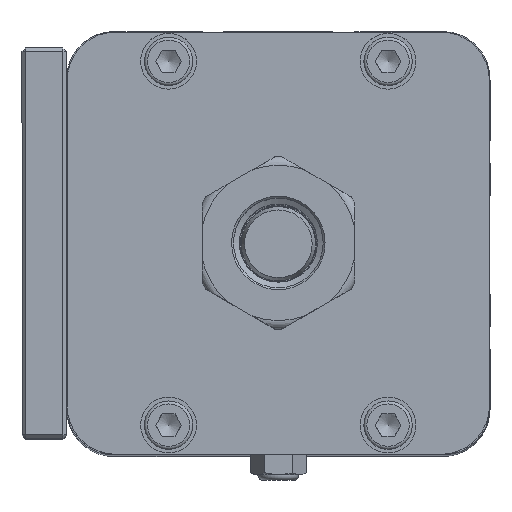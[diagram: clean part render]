
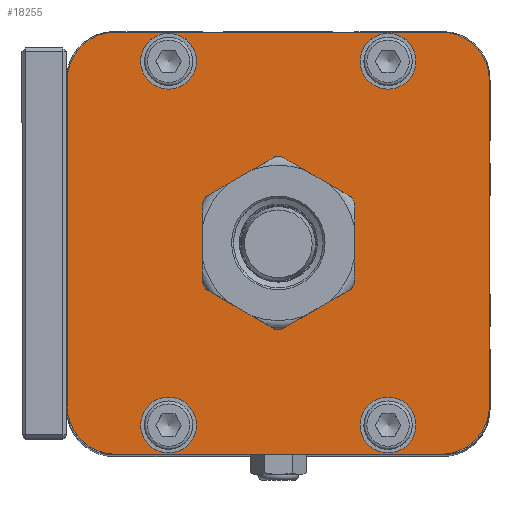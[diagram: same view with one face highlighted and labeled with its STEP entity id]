
A CAD part, top view. The second image highlights one B-rep face of the part: STEP entity #18255.
In plain terms, the highlighted planar face has unit normal (0, 0, 1) as drawn and (0, 0, -1) by its records, which use the part's own axes.
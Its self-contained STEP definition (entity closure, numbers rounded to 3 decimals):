
#1255=FACE_BOUND('',#3225,.T.);
#1256=FACE_BOUND('',#3226,.T.);
#1257=FACE_BOUND('',#3227,.T.);
#1258=FACE_BOUND('',#3228,.T.);
#1259=FACE_BOUND('',#3229,.T.);
#1494=PLANE('',#20141);
#2061=FACE_OUTER_BOUND('',#3224,.T.);
#3224=EDGE_LOOP('',(#13455,#13456,#13457,#13458,#13459,#13460,#13461,#13462));
#3225=EDGE_LOOP('',(#13463));
#3226=EDGE_LOOP('',(#13464));
#3227=EDGE_LOOP('',(#13465));
#3228=EDGE_LOOP('',(#13466));
#3229=EDGE_LOOP('',(#13467));
#4610=LINE('',#29178,#5764);
#4614=LINE('',#29190,#5768);
#4618=LINE('',#29202,#5772);
#4622=LINE('',#29213,#5776);
#5764=VECTOR('',#23189,10.);
#5768=VECTOR('',#23201,10.);
#5772=VECTOR('',#23213,10.);
#5776=VECTOR('',#23225,10.);
#6836=CIRCLE('',#20086,20.);
#6843=CIRCLE('',#20099,7.5);
#6847=CIRCLE('',#20106,7.5);
#6851=CIRCLE('',#20113,7.5);
#6855=CIRCLE('',#20120,7.5);
#6857=CIRCLE('',#20125,13.);
#6859=CIRCLE('',#20129,13.);
#6861=CIRCLE('',#20133,13.);
#6863=CIRCLE('',#20137,13.);
#8198=VERTEX_POINT('',#29095);
#8205=VERTEX_POINT('',#29118);
#8209=VERTEX_POINT('',#29131);
#8213=VERTEX_POINT('',#29144);
#8217=VERTEX_POINT('',#29157);
#8220=VERTEX_POINT('',#29168);
#8221=VERTEX_POINT('',#29169);
#8224=VERTEX_POINT('',#29177);
#8226=VERTEX_POINT('',#29183);
#8228=VERTEX_POINT('',#29189);
#8230=VERTEX_POINT('',#29195);
#8232=VERTEX_POINT('',#29201);
#8234=VERTEX_POINT('',#29207);
#10136=EDGE_CURVE('',#8198,#8198,#6836,.T.);
#10145=EDGE_CURVE('',#8205,#8205,#6843,.T.);
#10151=EDGE_CURVE('',#8209,#8209,#6847,.T.);
#10157=EDGE_CURVE('',#8213,#8213,#6851,.T.);
#10163=EDGE_CURVE('',#8217,#8217,#6855,.T.);
#10168=EDGE_CURVE('',#8220,#8221,#6857,.T.);
#10172=EDGE_CURVE('',#8224,#8220,#4610,.T.);
#10175=EDGE_CURVE('',#8226,#8224,#6859,.T.);
#10178=EDGE_CURVE('',#8228,#8226,#4614,.T.);
#10181=EDGE_CURVE('',#8230,#8228,#6861,.T.);
#10184=EDGE_CURVE('',#8232,#8230,#4618,.T.);
#10187=EDGE_CURVE('',#8234,#8232,#6863,.T.);
#10190=EDGE_CURVE('',#8221,#8234,#4622,.T.);
#13455=ORIENTED_EDGE('',*,*,#10190,.F.);
#13456=ORIENTED_EDGE('',*,*,#10168,.F.);
#13457=ORIENTED_EDGE('',*,*,#10172,.F.);
#13458=ORIENTED_EDGE('',*,*,#10175,.F.);
#13459=ORIENTED_EDGE('',*,*,#10178,.F.);
#13460=ORIENTED_EDGE('',*,*,#10181,.F.);
#13461=ORIENTED_EDGE('',*,*,#10184,.F.);
#13462=ORIENTED_EDGE('',*,*,#10187,.F.);
#13463=ORIENTED_EDGE('',*,*,#10136,.T.);
#13464=ORIENTED_EDGE('',*,*,#10145,.T.);
#13465=ORIENTED_EDGE('',*,*,#10151,.T.);
#13466=ORIENTED_EDGE('',*,*,#10157,.T.);
#13467=ORIENTED_EDGE('',*,*,#10163,.T.);
#18255=ADVANCED_FACE('',(#2061,#1255,#1256,#1257,#1258,#1259),#1494,.F.);
#20086=AXIS2_PLACEMENT_3D('',#29097,#23092,#23093);
#20099=AXIS2_PLACEMENT_3D('',#29119,#23120,#23121);
#20106=AXIS2_PLACEMENT_3D('',#29132,#23136,#23137);
#20113=AXIS2_PLACEMENT_3D('',#29145,#23152,#23153);
#20120=AXIS2_PLACEMENT_3D('',#29158,#23168,#23169);
#20125=AXIS2_PLACEMENT_3D('',#29170,#23181,#23182);
#20129=AXIS2_PLACEMENT_3D('',#29184,#23194,#23195);
#20133=AXIS2_PLACEMENT_3D('',#29196,#23206,#23207);
#20137=AXIS2_PLACEMENT_3D('',#29208,#23218,#23219);
#20141=AXIS2_PLACEMENT_3D('',#29216,#23229,#23230);
#23092=DIRECTION('center_axis',(0.,0.,1.));
#23093=DIRECTION('ref_axis',(0.,1.,0.));
#23120=DIRECTION('center_axis',(0.,0.,1.));
#23121=DIRECTION('ref_axis',(-1.,0.,0.));
#23136=DIRECTION('center_axis',(0.,0.,1.));
#23137=DIRECTION('ref_axis',(-1.,0.,0.));
#23152=DIRECTION('center_axis',(0.,0.,1.));
#23153=DIRECTION('ref_axis',(-1.,0.,0.));
#23168=DIRECTION('center_axis',(0.,0.,1.));
#23169=DIRECTION('ref_axis',(-1.,0.,0.));
#23181=DIRECTION('center_axis',(0.,0.,1.));
#23182=DIRECTION('ref_axis',(-1.,0.,0.));
#23189=DIRECTION('',(0.,-1.,0.));
#23194=DIRECTION('center_axis',(0.,0.,1.));
#23195=DIRECTION('ref_axis',(0.,1.,0.));
#23201=DIRECTION('',(-1.,0.,0.));
#23206=DIRECTION('center_axis',(0.,0.,1.));
#23207=DIRECTION('ref_axis',(1.,0.,0.));
#23213=DIRECTION('',(0.,1.,0.));
#23218=DIRECTION('center_axis',(0.,0.,1.));
#23219=DIRECTION('ref_axis',(0.,-1.,0.));
#23225=DIRECTION('',(1.,0.,0.));
#23229=DIRECTION('center_axis',(0.,0.,1.));
#23230=DIRECTION('ref_axis',(1.,0.,0.));
#29095=CARTESIAN_POINT('',(0.,-20.,0.));
#29097=CARTESIAN_POINT('Origin',(0.,0.,0.));
#29118=CARTESIAN_POINT('',(37.,48.9,0.));
#29119=CARTESIAN_POINT('Origin',(29.5,48.9,0.));
#29131=CARTESIAN_POINT('',(-22.,-48.9,0.));
#29132=CARTESIAN_POINT('Origin',(-29.5,-48.9,0.));
#29144=CARTESIAN_POINT('',(37.,-48.9,0.));
#29145=CARTESIAN_POINT('Origin',(29.5,-48.9,0.));
#29157=CARTESIAN_POINT('',(-22.,48.9,0.));
#29158=CARTESIAN_POINT('Origin',(-29.5,48.9,0.));
#29168=CARTESIAN_POINT('',(-56.75,-43.75,0.));
#29169=CARTESIAN_POINT('',(-43.75,-56.75,0.));
#29170=CARTESIAN_POINT('Origin',(-43.75,-43.75,0.));
#29177=CARTESIAN_POINT('',(-56.75,43.75,0.));
#29178=CARTESIAN_POINT('',(-56.75,43.75,0.));
#29183=CARTESIAN_POINT('',(-43.75,56.75,0.));
#29184=CARTESIAN_POINT('Origin',(-43.75,43.75,0.));
#29189=CARTESIAN_POINT('',(43.75,56.75,0.));
#29190=CARTESIAN_POINT('',(43.75,56.75,0.));
#29195=CARTESIAN_POINT('',(56.75,43.75,0.));
#29196=CARTESIAN_POINT('Origin',(43.75,43.75,0.));
#29201=CARTESIAN_POINT('',(56.75,-43.75,0.));
#29202=CARTESIAN_POINT('',(56.75,-43.75,0.));
#29207=CARTESIAN_POINT('',(43.75,-56.75,0.));
#29208=CARTESIAN_POINT('Origin',(43.75,-43.75,0.));
#29213=CARTESIAN_POINT('',(-43.75,-56.75,0.));
#29216=CARTESIAN_POINT('Origin',(0.,0.,0.));
